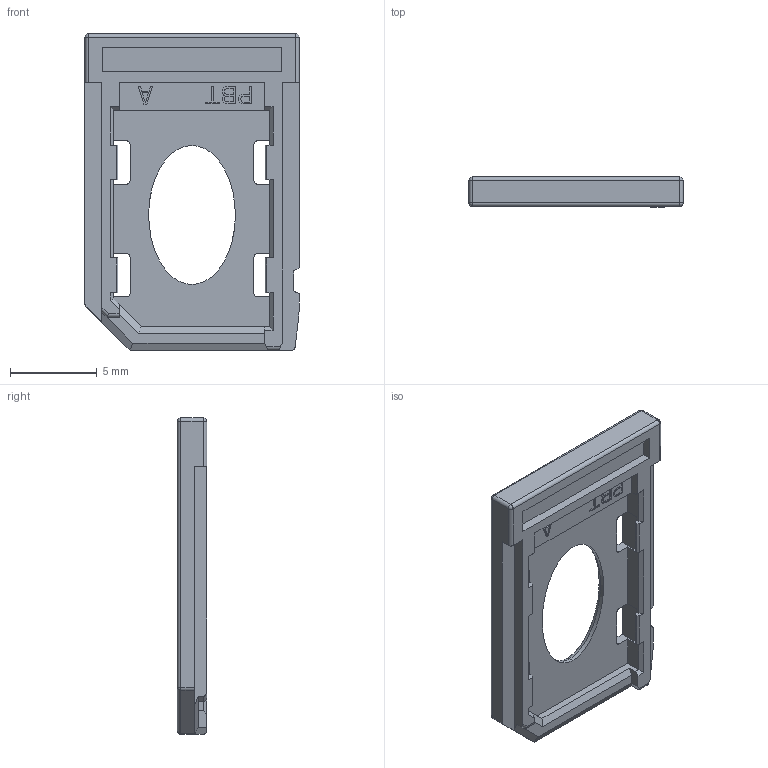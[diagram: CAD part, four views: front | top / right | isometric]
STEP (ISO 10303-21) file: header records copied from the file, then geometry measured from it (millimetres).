
FILE_DESCRIPTION((''),'2;1');
FILE_NAME('115U-T008_C_2','2025-06-24T',('fros.liao'),(''),'CREO PARAMETRIC BY PTC INC, 2015080','CREO PARAMETRIC BY PTC INC, 2015080','');
FILE_SCHEMA(('CONFIG_CONTROL_DESIGN'));
Length unit declared in the file: millimetre
Products named in the file (1): 115U-T008_C_2
Bounding box: 12.35 x 1.7 x 18.25 mm (x, y, z)
Volume: 175.1 mm3; surface area: 548 mm2
Topology: 1 solids, 1 shells, 246 faces, 682 edges, 440 vertices
Faces by surface type: plane 205, cylinder 29, sphere 7, bspline 2, extrusion 2, torus 1
Entity records: 8190 total; most frequent: CARTESIAN_POINT 1879, ORIENTED_EDGE 1350, DIRECTION 1200, EDGE_CURVE 675, VECTOR 606, LINE 604, VERTEX_POINT 440, AXIS2_PLACEMENT_3D 297
